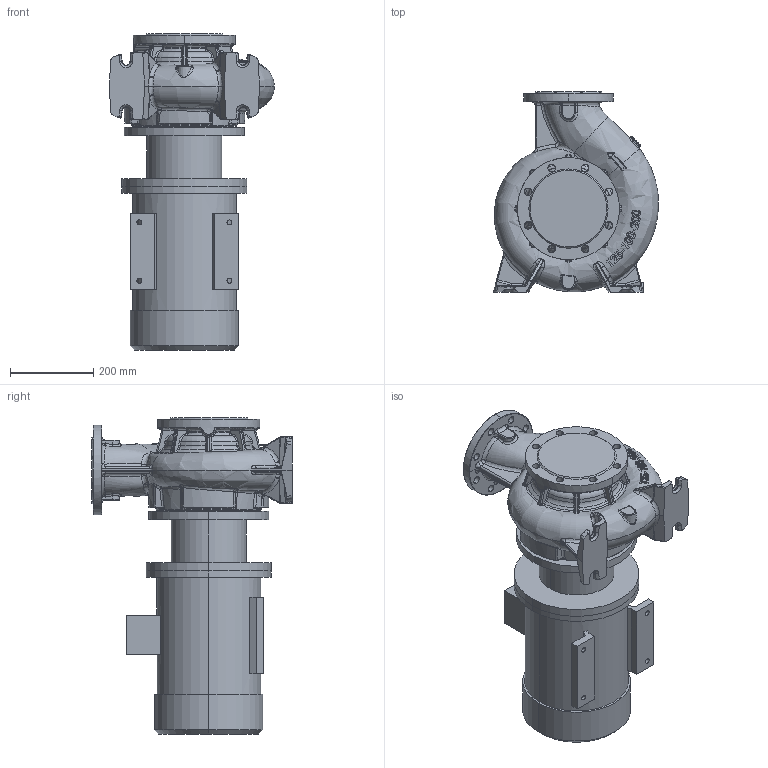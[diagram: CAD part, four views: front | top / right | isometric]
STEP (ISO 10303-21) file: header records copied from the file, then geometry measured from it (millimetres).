
FILE_DESCRIPTION (( 'STEP AP203' ), '1' );
FILE_NAME ('KRM 125-100-200-4-5,5.STEP', '2026-08-18T05:36:43', ( '' ), ( '' ), 'SwSTEP 2.0', 'SolidWorks 2016', '' );
FILE_SCHEMA (( 'CONFIG_CONTROL_DESIGN' ));
Products named in the file (1): KRM 125-100-200-4-5,5
Bounding box: 396.29 x 480 x 757.8 mm (x, y, z)
Volume: 46148293.2 mm3; surface area: 1679294.9 mm2
Topology: 15 solids, 15 shells, 1375 faces, 3312 edges, 1955 vertices
Faces by surface type: bspline 630, cylinder 267, plane 234, torus 115, cone 80, sphere 49
Entity records: 95142 total; most frequent: CARTESIAN_POINT 67973, ORIENTED_EDGE 6562, DIRECTION 4493, EDGE_CURVE 3281, VERTEX_POINT 1953, AXIS2_PLACEMENT_3D 1889, EDGE_LOOP 1440, ADVANCED_FACE 1375
